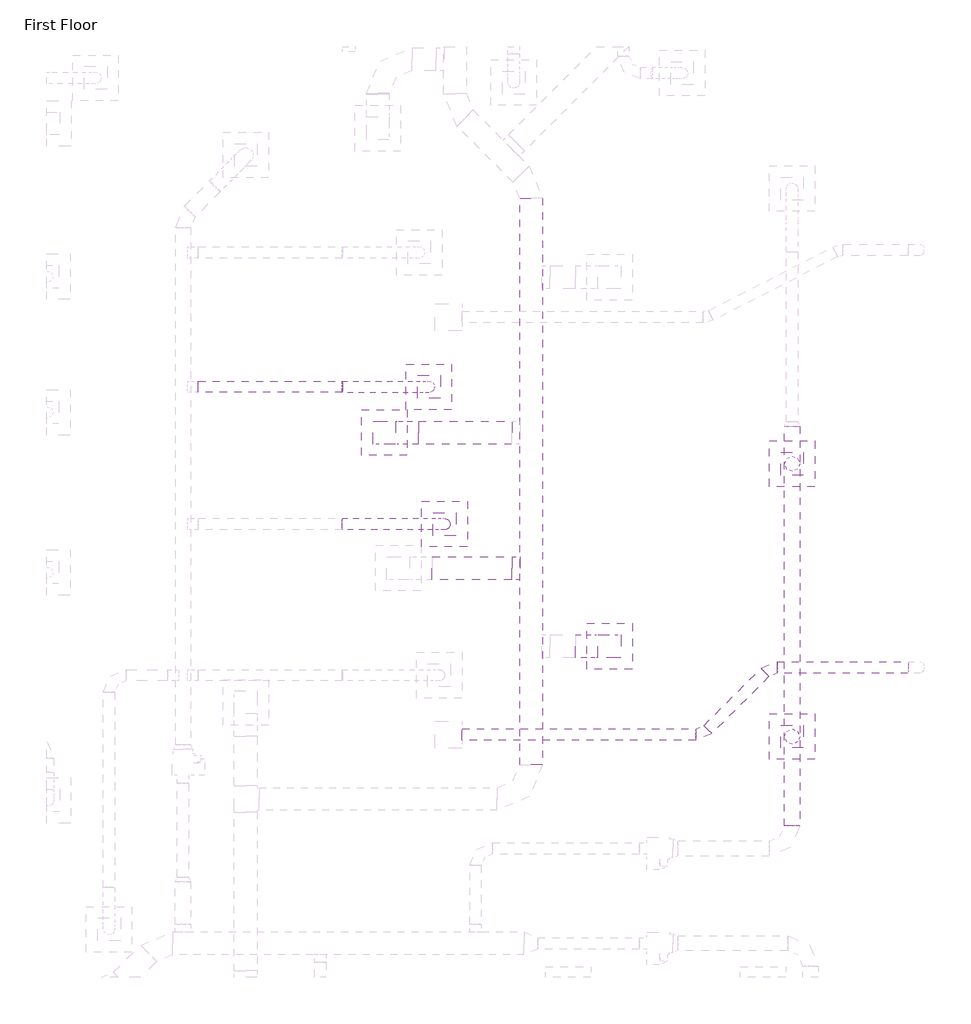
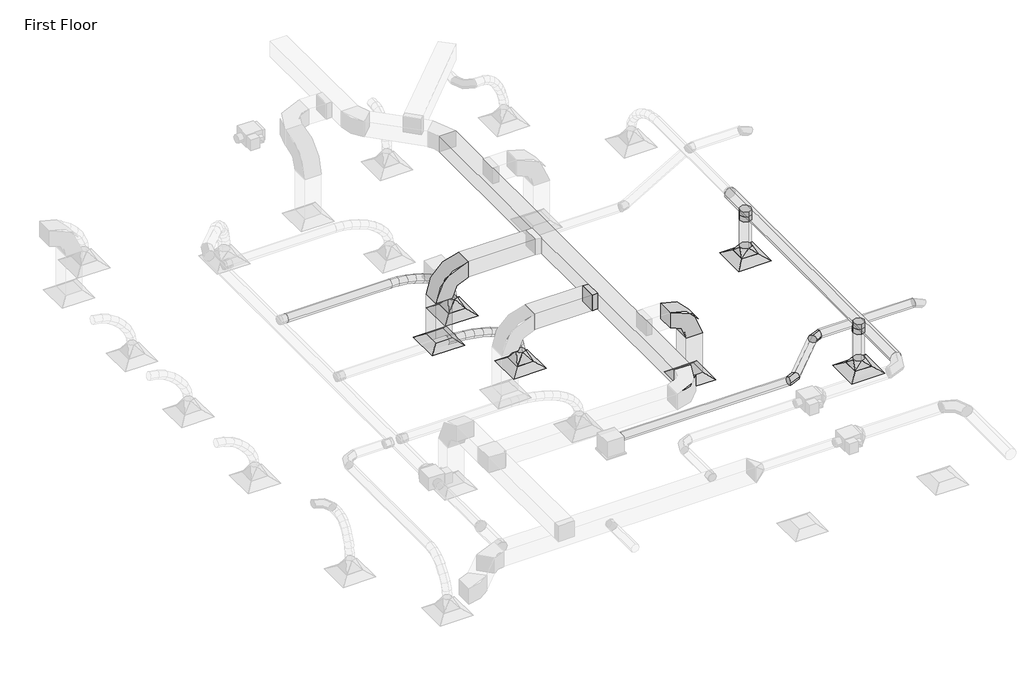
# One storey, part 29 of 61: 14 duct segments, 11 duct fittings, 6 air terminals.
"""IFC4 building model written with IfcOpenShell, lengths in millimetres."""

from ifc_helpers import new_model, si_unit, point, frame, frame_2d, origin, place, context, project, spatial, polyline, circle_curve, ellipse_curve, trimmed, segment, composite_curve, outline, extrude, transform, mapped, element, save
from ifc_brep_helpers import plane_surface, cylinder_surface, advanced_brep
from components import m_exhaust_grill_er_600_x_600_face_300_x_300_connection_ff221211, m_rectangular_elbow_radius_1_5_w_86011e9f, m_rectangular_takeoff_standard_c00386d1, m_rectangular_to_round_transition_angle_45_degree_8f201c83, m_rectangular_to_round_transition_angle_45_degree_60daae35, m_rectangular_to_round_transition_angle_45_degree_7471e4b7, m_round_elbow_1_5_d_fa134dda, m_round_takeoff_standard_c62ca294

model = new_model("IFC4")

# Units and contexts
model_context = context("Model", 3, world=origin())
ifc_project = project(units=[si_unit("LENGTHUNIT", "METRE", prefix="MILLI")], contexts=[model_context])

# Site, building, storey
site = spatial("IfcSite", under=ifc_project)
building = spatial("IfcBuilding", under=site)
storey = spatial("IfcBuildingStorey", under=building, Name="First Floor", Elevation=0.0)

# Air terminals
placement = place(None, origin())
m_exhaust_grill_er_600_x_600_face_300_x_300_connection_shape = m_exhaust_grill_er_600_x_600_face_300_x_300_connection_ff221211(model_context)
element("IfcAirTerminal", 1, ObjectType="M_Return Register : RR-600 x 600 Face 300 x 300 Connection", at=placement, inside=storey, context=model_context, shape_type="MappedRepresentation", body=[
    mapped(m_exhaust_grill_er_600_x_600_face_300_x_300_connection_shape, transform((-3467.2135398, 17580.7276944, 2680.0), x_axis=(1.0, 0.0, 0.0), y_axis=(0.0, 1.0, 0.0), z_axis=(0.0, 0.0, 1.0))),
])
element("IfcAirTerminal", 2, ObjectType="M_Return Register : RR-600 x 600 Face 300 x 300 Connection", at=placement, inside=storey, context=model_context, shape_type="MappedRepresentation", body=[
    mapped(m_exhaust_grill_er_600_x_600_face_300_x_300_connection_shape, transform((-6436.7744322, 20395.3598934, 2680.0), x_axis=(1.0, 0.0, 0.0), y_axis=(0.0, 1.0, 0.0), z_axis=(0.0, 0.0, 1.0))),
])
element("IfcAirTerminal", 3, ObjectType="M_Supply Diffuser : SD-600 x 600 Face 300 x 300 Connection", at=placement, inside=storey, context=model_context, shape_type="MappedRepresentation", body=[
    mapped(m_exhaust_grill_er_600_x_600_face_300_x_300_connection_shape, transform((-1059.7279224, 16390.5597335, 2680.0), x_axis=(1.0, 0.0, 0.0), y_axis=(0.0, 1.0, 0.0), z_axis=(0.0, 0.0, 1.0))),
])
element("IfcAirTerminal", 4, ObjectType="M_Supply Diffuser : SD-600 x 600 Face 300 x 300 Connection", at=placement, inside=storey, context=model_context, shape_type="MappedRepresentation", body=[
    mapped(m_exhaust_grill_er_600_x_600_face_300_x_300_connection_shape, transform((-1059.7406517, 19985.6600802, 2680.0), x_axis=(1.0, 0.0, 0.0), y_axis=(0.0, 1.0, 0.0), z_axis=(0.0, 0.0, 1.0))),
])
element("IfcAirTerminal", 5, ObjectType="M_Supply Diffuser : SD-600 x 600 Face 300 x 300 Connection", at=placement, inside=storey, context=model_context, shape_type="MappedRepresentation", body=[
    mapped(m_exhaust_grill_er_600_x_600_face_300_x_300_connection_shape, transform((-5642.2353015, 19189.4526186, 2680.0), x_axis=(1.0, 0.0, 0.0), y_axis=(0.0, 1.0, 0.0), z_axis=(0.0, 0.0, 1.0))),
])
element("IfcAirTerminal", 6, ObjectType="M_Supply Diffuser : SD-600 x 600 Face 300 x 300 Connection", at=placement, inside=storey, context=model_context, shape_type="MappedRepresentation", body=[
    mapped(m_exhaust_grill_er_600_x_600_face_300_x_300_connection_shape, transform((-5846.8296927, 20999.3260792, 2680.0), x_axis=(1.0, 0.0, 0.0), y_axis=(0.0, 1.0, 0.0), z_axis=(0.0, 0.0, 1.0))),
])

# Duct fittings
m_rectangular_elbow_radius_1_5_w_shape = m_rectangular_elbow_radius_1_5_w_86011e9f(model_context)
element("IfcDuctFitting", 7, ObjectType="M_Rectangular Elbow - Radius : 1.5 W", at=placement, inside=storey, context=model_context, shape_type="MappedRepresentation", body=[
    mapped(m_rectangular_elbow_radius_1_5_w_shape, transform((-6436.7744322, 20395.3598934, 4000.0), x_axis=(0.0, 0.0, 1.0), y_axis=(1.0, 0.0, 0.0), z_axis=(0.0, 1.0, 0.0))),
])
element("IfcDuctFitting", 8, ObjectType="M_Rectangular Elbow - Radius : 1.5 W", at=placement, inside=storey, context=model_context, shape_type="MappedRepresentation", body=[
    mapped(m_rectangular_elbow_radius_1_5_w_shape, transform((-3467.2135398, 17580.7276944, 4000.0), x_axis=(0.0, 0.0, 1.0), y_axis=(-1.0, 0.0, 0.0), z_axis=(0.0, -1.0, 0.0))),
])
m_rectangular_takeoff_standard_shape = m_rectangular_takeoff_standard_c00386d1(model_context)
element("IfcDuctFitting", 9, ObjectType="M_Rectangular Takeoff : Standard", at=placement, inside=storey, context=model_context, shape_type="MappedRepresentation", body=[
    mapped(m_rectangular_takeoff_standard_shape, transform((-4650.4325102, 18610.0, 4000.0), x_axis=(-1.0, 0.0, 0.0), y_axis=(0.0, 1.0, 0.0), z_axis=(0.0, 0.0, -1.0))),
])
m_rectangular_to_round_transition_angle_45_degree_shape = m_rectangular_to_round_transition_angle_45_degree_8f201c83(model_context)
element("IfcDuctFitting", 10, ObjectType="M_Rectangular to Round Transition - Angle : 45 Degree", at=placement, inside=storey, context=model_context, shape_type="MappedRepresentation", body=[
    mapped(m_rectangular_to_round_transition_angle_45_degree_shape, transform((-5846.8296927, 20999.3260792, 2781.6), x_axis=(0.0, 0.0, 1.0), y_axis=(1.0, 0.0, 0.0), z_axis=(0.0, 1.0, 0.0))),
])
element("IfcDuctFitting", 11, ObjectType="M_Rectangular to Round Transition - Angle : 45 Degree", at=placement, inside=storey, context=model_context, shape_type="MappedRepresentation", body=[
    mapped(m_rectangular_to_round_transition_angle_45_degree_shape, transform((-5642.2353015, 19189.4526186, 2781.6), x_axis=(0.0, 0.0, 1.0), y_axis=(1.0, 0.0, 0.0), z_axis=(0.0, 1.0, 0.0))),
])
m_rectangular_to_round_transition_angle_45_degree_2_shape = m_rectangular_to_round_transition_angle_45_degree_60daae35(model_context)
element("IfcDuctFitting", 12, ObjectType="M_Rectangular to Round Transition - Angle : 45 Degree", at=placement, inside=storey, context=model_context, shape_type="MappedRepresentation", body=[
    mapped(m_rectangular_to_round_transition_angle_45_degree_2_shape, transform((-1059.7279224, 16390.5597335, 2781.6), x_axis=(0.0, 0.0, 1.0), y_axis=(1.0, 0.0, 0.0), z_axis=(0.0, 1.0, 0.0))),
])
m_rectangular_to_round_transition_angle_45_degree_3_shape = m_rectangular_to_round_transition_angle_45_degree_7471e4b7(model_context)
element("IfcDuctFitting", 13, ObjectType="M_Rectangular to Round Transition - Angle : 45 Degree", at=placement, inside=storey, context=model_context, shape_type="MappedRepresentation", body=[
    mapped(m_rectangular_to_round_transition_angle_45_degree_3_shape, transform((-1059.7406517, 19985.6600802, 2781.6), x_axis=(0.0, 0.0, 1.0), y_axis=(1.0, 0.0, 0.0), z_axis=(0.0, 1.0, 0.0))),
])
m_round_elbow_1_5_d_shape = m_round_elbow_1_5_d_fa134dda(model_context)
element("IfcDuctFitting", 14, ObjectType="M_Round Elbow : 1.5 D", at=placement, inside=storey, context=model_context, shape_type="MappedRepresentation", body=[
    mapped(m_round_elbow_1_5_d_shape, transform((-2236.1387138, 16417.4766608, 2879.6), x_axis=(1.0, 0.0, 0.0), y_axis=(0.0, 1.0, 0.0), z_axis=(0.0, 0.0, 1.0))),
])
element("IfcDuctFitting", 15, ObjectType="M_Round Elbow : 1.5 D", at=placement, inside=storey, context=model_context, shape_type="MappedRepresentation", body=[
    mapped(m_round_elbow_1_5_d_shape, transform((-1350.5330077, 17303.0823669, 2879.6), x_axis=(-1.0, 0.0, 0.0), y_axis=(0.0, -1.0, 0.0), z_axis=(0.0, 0.0, 1.0))),
])
m_round_takeoff_standard_shape = m_round_takeoff_standard_c62ca294(model_context)
element("IfcDuctFitting", 16, ObjectType="M_Round Takeoff : Standard", at=placement, inside=storey, context=model_context, shape_type="MappedRepresentation", body=[
    mapped(m_round_takeoff_standard_shape, transform((-1059.7279224, 19985.6600802, 3519.1), x_axis=(0.0, 0.0, -1.0), y_axis=(-1.0, 0.0, 0.0), z_axis=(0.0, 1.0, 0.0))),
])
element("IfcDuctFitting", 17, ObjectType="M_Round Takeoff : Standard", at=placement, inside=storey, context=model_context, shape_type="MappedRepresentation", body=[
    mapped(m_round_takeoff_standard_shape, transform((-1059.7279224, 16390.5597335, 3519.1), x_axis=(0.0, 0.0, -1.0), y_axis=(-1.0, 0.0, 0.0), z_axis=(0.0, 1.0, 0.0))),
])

# Duct segments
element("IfcDuctSegment", 18, ObjectType="Flex - Round", at=placement, inside=storey, context=model_context, shape_type="AdvancedBrep", body=[
    advanced_brep(
    [(-6989.2747853, 21074.3260792, 3619.1), (-6992.7970354, 20999.3260792, 3544.182754), (-6989.2747853, 20924.3260792, 3619.1), (-6985.7525352, 20999.3260792, 3694.017246), (-6850.5602123, 21074.3260792, 3612.5783052), (-6857.2278739, 20999.3260792, 3537.8089413), (-6850.5602123, 20924.3260792, 3612.5783052), (-6843.8925508, 20999.3260792, 3687.347669), (-5846.8296927, 21074.3260792, 2962.6660172), (-5772.7821084, 20999.3260792, 2974.5805152), (-5846.8296927, 20924.3260792, 2962.6660172), (-5920.877277, 20999.3260792, 2950.7515192), (-6701.8068892, 21074.3260792, 3592.9942674), (-6714.5543238, 20999.3260792, 3519.0253328), (-6701.8068892, 20924.3260792, 3592.9942674), (-6689.0594545, 20999.3260792, 3666.9632021), (-6548.8185191, 21074.3260792, 3560.3194566), (-6567.5390172, 20999.3260792, 3487.6262315), (-6548.8185191, 20924.3260792, 3560.3194566), (-6530.098021, 20999.3260792, 3633.0126818), (-6397.3988054, 21074.3260792, 3514.5254429), (-6422.5121073, 20999.3260792, 3443.7655998), (-6397.3988054, 20924.3260792, 3514.5254429), (-6372.2855035, 20999.3260792, 3585.2852861), (-6253.3514514, 21074.3260792, 3455.5837962), (-6285.7590471, 20999.3260792, 3387.8086499), (-6253.3514514, 20924.3260792, 3455.5837962), (-6220.9438557, 20999.3260792, 3523.3589425), (-6122.4801604, 21074.3260792, 3383.4660864), (-6163.5413846, 20999.3260792, 3320.4595939), (-6122.4801604, 20924.3260792, 3383.4660864), (-6081.4189362, 20999.3260792, 3446.472579), (-6010.5886357, 21074.3260792, 3298.1438837), (-6061.9141697, 20999.3260792, 3242.9643781), (-6010.5886357, 20924.3260792, 3298.1438837), (-5959.2631018, 20999.3260792, 3353.3233892), (-5923.4805807, 21074.3260792, 3199.5887579), (-5986.0641549, 20999.3260792, 3157.1467378), (-5923.4805807, 20924.3260792, 3199.5887579), (-5860.8970064, 20999.3260792, 3242.030778), (-5866.9596986, 21074.3260792, 3087.772279), (-5939.1548452, 20999.3260792, 3064.3450396), (-5866.9596986, 20924.3260792, 3087.772279), (-5794.764552, 20999.3260792, 3111.1995185)],
    [
        (0, 1, circle_curve(frame((-6989.2747853, 20999.3260792, 3619.1), z_axis=(-0.9988966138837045, 0.0, 0.04696333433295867), x_axis=(0.0, 1.0, 0.0)), 75.0)),
        (1, 2, circle_curve(frame((-6989.2747853, 20999.3260792, 3619.1), z_axis=(-0.9988966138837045, 0.0, 0.04696333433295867), x_axis=(0.0, 1.0, 0.0)), 75.0)),
        (2, 3, circle_curve(frame((-6989.2747853, 20999.3260792, 3619.1), z_axis=(-0.9988966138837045, 0.0, 0.04696333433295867), x_axis=(0.0, 1.0, 0.0)), 75.0)),
        (3, 0, circle_curve(frame((-6989.2747853, 20999.3260792, 3619.1), z_axis=(-0.9988966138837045, 0.0, 0.04696333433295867), x_axis=(0.0, 1.0, 0.0)), 75.0)),
        (0, 4),
        (4, 5, ellipse_curve(frame((-6850.5602123, 20999.3260792, 3612.5783052), z_axis=(-0.9960473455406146, 0.0, 0.08882390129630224), x_axis=(-0.08882390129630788, 0.0, -0.9960473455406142)), 75.0660741, 75.0)),
        (5, 1),
        (5, 6, ellipse_curve(frame((-6850.5602123, 20999.3260792, 3612.5783052), z_axis=(-0.9960473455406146, 0.0, 0.08882390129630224), x_axis=(-0.08882390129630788, 0.0, -0.9960473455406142)), 75.0660741, 75.0)),
        (6, 2),
        (6, 7, ellipse_curve(frame((-6850.5602123, 20999.3260792, 3612.5783052), z_axis=(-0.9960473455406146, 0.0, 0.08882390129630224), x_axis=(-0.08882390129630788, 0.0, -0.9960473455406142)), 75.0660741, 75.0)),
        (7, 3),
        (7, 4, ellipse_curve(frame((-6850.5602123, 20999.3260792, 3612.5783052), z_axis=(-0.9960473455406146, 0.0, 0.08882390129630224), x_axis=(-0.08882390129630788, 0.0, -0.9960473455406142)), 75.0660741, 75.0)),
        (8, 9, circle_curve(frame((-5846.8296927, 20999.3260792, 2962.6660172), z_axis=(0.15885997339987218, 0.0, -0.9873011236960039), x_axis=(0.0, 1.0, 0.0)), 75.0)),
        (9, 10, circle_curve(frame((-5846.8296927, 20999.3260792, 2962.6660172), z_axis=(0.15885997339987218, 0.0, -0.9873011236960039), x_axis=(0.0, 1.0, 0.0)), 75.0)),
        (10, 11, circle_curve(frame((-5846.8296927, 20999.3260792, 2962.6660172), z_axis=(0.15885997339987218, 0.0, -0.9873011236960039), x_axis=(0.0, 1.0, 0.0)), 75.0)),
        (11, 8, circle_curve(frame((-5846.8296927, 20999.3260792, 2962.6660172), z_axis=(0.15885997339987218, 0.0, -0.9873011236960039), x_axis=(0.0, 1.0, 0.0)), 75.0)),
        (4, 12),
        (12, 13, ellipse_curve(frame((-6701.8068892, 20999.3260792, 3592.9942674), z_axis=(-0.9854731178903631, 0.0, 0.16983148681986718), x_axis=(-0.16983148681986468, 0.0, -0.9854731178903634)), 75.0593124, 75.0)),
        (13, 5),
        (13, 14, ellipse_curve(frame((-6701.8068892, 20999.3260792, 3592.9942674), z_axis=(-0.9854731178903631, 0.0, 0.16983148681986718), x_axis=(-0.16983148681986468, 0.0, -0.9854731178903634)), 75.0593124, 75.0)),
        (14, 6),
        (14, 15, ellipse_curve(frame((-6701.8068892, 20999.3260792, 3592.9942674), z_axis=(-0.9854731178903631, 0.0, 0.16983148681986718), x_axis=(-0.16983148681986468, 0.0, -0.9854731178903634)), 75.0593124, 75.0)),
        (15, 7),
        (15, 12, ellipse_curve(frame((-6701.8068892, 20999.3260792, 3592.9942674), z_axis=(-0.9854731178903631, 0.0, 0.16983148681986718), x_axis=(-0.16983148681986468, 0.0, -0.9854731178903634)), 75.0593124, 75.0)),
        (12, 16),
        (16, 17, ellipse_curve(frame((-6548.8185191, 20999.3260792, 3560.3194566), z_axis=(-0.9684030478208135, 0.0, 0.24939033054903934), x_axis=(-0.24939033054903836, 0.0, -0.9684030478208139)), 75.065052, 75.0)),
        (17, 13),
        (17, 18, ellipse_curve(frame((-6548.8185191, 20999.3260792, 3560.3194566), z_axis=(-0.9684030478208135, 0.0, 0.24939033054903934), x_axis=(-0.24939033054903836, 0.0, -0.9684030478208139)), 75.065052, 75.0)),
        (18, 14),
        (18, 19, ellipse_curve(frame((-6548.8185191, 20999.3260792, 3560.3194566), z_axis=(-0.9684030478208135, 0.0, 0.24939033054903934), x_axis=(-0.24939033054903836, 0.0, -0.9684030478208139)), 75.065052, 75.0)),
        (19, 15),
        (19, 16, ellipse_curve(frame((-6548.8185191, 20999.3260792, 3560.3194566), z_axis=(-0.9684030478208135, 0.0, 0.24939033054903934), x_axis=(-0.24939033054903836, 0.0, -0.9684030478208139)), 75.065052, 75.0)),
        (16, 20),
        (20, 21, ellipse_curve(frame((-6397.3988054, 20999.3260792, 3514.5254429), z_axis=(-0.942406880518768, 0.0, 0.3344686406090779), x_axis=(-0.3344686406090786, 0.0, -0.9424068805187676)), 75.084175, 75.0)),
        (21, 17),
        (21, 22, ellipse_curve(frame((-6397.3988054, 20999.3260792, 3514.5254429), z_axis=(-0.942406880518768, 0.0, 0.3344686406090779), x_axis=(-0.3344686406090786, 0.0, -0.9424068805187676)), 75.084175, 75.0)),
        (22, 18),
        (22, 23, ellipse_curve(frame((-6397.3988054, 20999.3260792, 3514.5254429), z_axis=(-0.942406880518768, 0.0, 0.3344686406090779), x_axis=(-0.3344686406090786, 0.0, -0.9424068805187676)), 75.084175, 75.0)),
        (23, 19),
        (23, 20, ellipse_curve(frame((-6397.3988054, 20999.3260792, 3514.5254429), z_axis=(-0.942406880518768, 0.0, 0.3344686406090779), x_axis=(-0.3344686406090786, 0.0, -0.9424068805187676)), 75.084175, 75.0)),
        (20, 24),
        (24, 25, ellipse_curve(frame((-6253.3514514, 20999.3260792, 3455.5837962), z_axis=(-0.9021684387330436, 0.0, 0.43138394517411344), x_axis=(-0.4313839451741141, 0.0, -0.9021684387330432)), 75.1247144, 75.0)),
        (25, 21),
        (25, 26, ellipse_curve(frame((-6253.3514514, 20999.3260792, 3455.5837962), z_axis=(-0.9021684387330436, 0.0, 0.43138394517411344), x_axis=(-0.4313839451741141, 0.0, -0.9021684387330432)), 75.1247144, 75.0)),
        (26, 22),
        (26, 27, ellipse_curve(frame((-6253.3514514, 20999.3260792, 3455.5837962), z_axis=(-0.9021684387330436, 0.0, 0.43138394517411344), x_axis=(-0.4313839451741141, 0.0, -0.9021684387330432)), 75.1247144, 75.0)),
        (27, 23),
        (27, 24, ellipse_curve(frame((-6253.3514514, 20999.3260792, 3455.5837962), z_axis=(-0.9021684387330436, 0.0, 0.43138394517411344), x_axis=(-0.4313839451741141, 0.0, -0.9021684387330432)), 75.1247144, 75.0)),
        (24, 28),
        (28, 29, ellipse_curve(frame((-6122.4801604, 20999.3260792, 3383.4660864), z_axis=(-0.8377928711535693, 0.0, 0.545988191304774), x_axis=(-0.5459881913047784, 0.0, -0.8377928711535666)), 75.2053338, 75.0)),
        (29, 25),
        (29, 30, ellipse_curve(frame((-6122.4801604, 20999.3260792, 3383.4660864), z_axis=(-0.8377928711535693, 0.0, 0.545988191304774), x_axis=(-0.5459881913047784, 0.0, -0.8377928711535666)), 75.2053338, 75.0)),
        (30, 26),
        (30, 31, ellipse_curve(frame((-6122.4801604, 20999.3260792, 3383.4660864), z_axis=(-0.8377928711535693, 0.0, 0.545988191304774), x_axis=(-0.5459881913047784, 0.0, -0.8377928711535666)), 75.2053338, 75.0)),
        (31, 27),
        (31, 28, ellipse_curve(frame((-6122.4801604, 20999.3260792, 3383.4660864), z_axis=(-0.8377928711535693, 0.0, 0.545988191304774), x_axis=(-0.5459881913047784, 0.0, -0.8377928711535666)), 75.2053338, 75.0)),
        (28, 32),
        (32, 33, ellipse_curve(frame((-6010.5886357, 20999.3260792, 3298.1438837), z_axis=(-0.73221478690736, 0.0, 0.6810737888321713), x_axis=(-0.6810737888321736, 0.0, -0.7322147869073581)), 75.3597257, 75.0)),
        (33, 29),
        (33, 34, ellipse_curve(frame((-6010.5886357, 20999.3260792, 3298.1438837), z_axis=(-0.73221478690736, 0.0, 0.6810737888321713), x_axis=(-0.6810737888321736, 0.0, -0.7322147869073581)), 75.3597257, 75.0)),
        (34, 30),
        (34, 35, ellipse_curve(frame((-6010.5886357, 20999.3260792, 3298.1438837), z_axis=(-0.73221478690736, 0.0, 0.6810737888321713), x_axis=(-0.6810737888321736, 0.0, -0.7322147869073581)), 75.3597257, 75.0)),
        (35, 31),
        (35, 32, ellipse_curve(frame((-6010.5886357, 20999.3260792, 3298.1438837), z_axis=(-0.73221478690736, 0.0, 0.6810737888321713), x_axis=(-0.6810737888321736, 0.0, -0.7322147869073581)), 75.3597257, 75.0)),
        (32, 36),
        (36, 37, ellipse_curve(frame((-5923.4805807, 20999.3260792, 3199.5887579), z_axis=(-0.5612713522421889, 0.0, 0.8276318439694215), x_axis=(-0.8276318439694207, 0.0, -0.5612713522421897)), 75.617649, 75.0)),
        (37, 33),
        (37, 38, ellipse_curve(frame((-5923.4805807, 20999.3260792, 3199.5887579), z_axis=(-0.5612713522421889, 0.0, 0.8276318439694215), x_axis=(-0.8276318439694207, 0.0, -0.5612713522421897)), 75.617649, 75.0)),
        (38, 34),
        (38, 39, ellipse_curve(frame((-5923.4805807, 20999.3260792, 3199.5887579), z_axis=(-0.5612713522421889, 0.0, 0.8276318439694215), x_axis=(-0.8276318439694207, 0.0, -0.5612713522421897)), 75.617649, 75.0)),
        (39, 35),
        (39, 36, ellipse_curve(frame((-5923.4805807, 20999.3260792, 3199.5887579), z_axis=(-0.5612713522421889, 0.0, 0.8276318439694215), x_axis=(-0.8276318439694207, 0.0, -0.5612713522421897)), 75.617649, 75.0)),
        (36, 40),
        (40, 41, ellipse_curve(frame((-5866.9596986, 20999.3260792, 3087.772279), z_axis=(-0.30865486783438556, 0.0, 0.9511741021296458), x_axis=(-0.9511741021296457, 0.0, -0.30865486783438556)), 75.9010852, 75.0)),
        (41, 37),
        (41, 42, ellipse_curve(frame((-5866.9596986, 20999.3260792, 3087.772279), z_axis=(-0.30865486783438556, 0.0, 0.9511741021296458), x_axis=(-0.9511741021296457, 0.0, -0.30865486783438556)), 75.9010852, 75.0)),
        (42, 38),
        (42, 43, ellipse_curve(frame((-5866.9596986, 20999.3260792, 3087.772279), z_axis=(-0.30865486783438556, 0.0, 0.9511741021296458), x_axis=(-0.9511741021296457, 0.0, -0.30865486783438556)), 75.9010852, 75.0)),
        (43, 39),
        (43, 40, ellipse_curve(frame((-5866.9596986, 20999.3260792, 3087.772279), z_axis=(-0.30865486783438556, 0.0, 0.9511741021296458), x_axis=(-0.9511741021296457, 0.0, -0.30865486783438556)), 75.9010852, 75.0)),
        (40, 8),
        (11, 41),
        (10, 42),
        (9, 43),
    ],
    [
        plane_surface(frame((-6989.2747853, 21074.3260792, 3619.1), z_axis=(-0.9988966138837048, 0.0, 0.046963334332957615), x_axis=(0.046963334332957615, 0.0, 0.9988966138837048))),
        cylinder_surface(frame((-6989.2747853, 20999.3260792, 3619.1), z_axis=(-0.9988966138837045, 0.0, 0.04696333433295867), x_axis=(0.0, 1.0, 0.0)), 75.0),
        plane_surface(frame((-5846.8296927, 21074.3260792, 2962.6660172), z_axis=(0.15885997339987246, 0.0, -0.9873011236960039), x_axis=(0.9873011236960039, 0.0, 0.15885997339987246))),
        cylinder_surface(frame((-6850.5602123, 20999.3260792, 3612.5783052), z_axis=(-0.9914446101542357, 0.0, 0.1305281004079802), x_axis=(0.0, 1.0, 0.0)), 75.0),
        cylinder_surface(frame((-6701.8068892, 20999.3260792, 3592.9942674), z_axis=(-0.9779441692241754, 0.0, 0.20886646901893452), x_axis=(0.0, 1.0, 0.0)), 75.0),
        cylinder_surface(frame((-6548.8185191, 20999.3260792, 3560.3194566), z_axis=(-0.9571834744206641, 0.0, 0.28948194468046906), x_axis=(0.0, 1.0, 0.0)), 75.0),
        cylinder_surface(frame((-6397.3988054, 20999.3260792, 3514.5254429), z_axis=(-0.9255172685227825, 0.0, 0.3787054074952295), x_axis=(0.0, 1.0, 0.0)), 75.0),
        cylinder_surface(frame((-6253.3514514, 20999.3260792, 3455.5837962), z_axis=(-0.8758242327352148, 0.0, 0.48263020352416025), x_axis=(0.0, 1.0, 0.0)), 75.0),
        cylinder_surface(frame((-6122.4801604, 20999.3260792, 3383.4660864), z_axis=(-0.7951866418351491, 0.0, 0.6063647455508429), x_axis=(0.0, 1.0, 0.0)), 75.0),
        cylinder_surface(frame((-6010.5886357, 20999.3260792, 3298.1438837), z_axis=(-0.6622525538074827, 0.0, 0.749280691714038), x_axis=(0.0, 1.0, 0.0)), 75.0),
        cylinder_surface(frame((-5923.4805807, 20999.3260792, 3199.5887579), z_axis=(-0.4511211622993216, 0.0, 0.8924627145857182), x_axis=(0.0, 1.0, 0.0)), 75.0),
        cylinder_surface(frame((-5866.9596986, 20999.3260792, 3087.772279), z_axis=(-0.15885997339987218, 0.0, 0.9873011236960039), x_axis=(0.0, 1.0, 0.0)), 75.0),
    ],
    [
        (0, [[1, 2, 3, 4]]),
        (1, [[-1, 5, 6, 7]]),
        (1, [[-2, -7, 8, 9]]),
        (1, [[-3, -9, 10, 11]]),
        (1, [[-4, -11, 12, -5]]),
        (2, [[13, 14, 15, 16]]),
        (3, [[-6, 17, 18, 19]]),
        (3, [[-8, -19, 20, 21]]),
        (3, [[-10, -21, 22, 23]]),
        (3, [[-12, -23, 24, -17]]),
        (4, [[-18, 25, 26, 27]]),
        (4, [[-20, -27, 28, 29]]),
        (4, [[-22, -29, 30, 31]]),
        (4, [[-24, -31, 32, -25]]),
        (5, [[-26, 33, 34, 35]]),
        (5, [[-28, -35, 36, 37]]),
        (5, [[-30, -37, 38, 39]]),
        (5, [[-32, -39, 40, -33]]),
        (6, [[-34, 41, 42, 43]]),
        (6, [[-36, -43, 44, 45]]),
        (6, [[-38, -45, 46, 47]]),
        (6, [[-40, -47, 48, -41]]),
        (7, [[-42, 49, 50, 51]]),
        (7, [[-44, -51, 52, 53]]),
        (7, [[-46, -53, 54, 55]]),
        (7, [[-48, -55, 56, -49]]),
        (8, [[-50, 57, 58, 59]]),
        (8, [[-52, -59, 60, 61]]),
        (8, [[-54, -61, 62, 63]]),
        (8, [[-56, -63, 64, -57]]),
        (9, [[-58, 65, 66, 67]]),
        (9, [[-60, -67, 68, 69]]),
        (9, [[-62, -69, 70, 71]]),
        (9, [[-64, -71, 72, -65]]),
        (10, [[-66, 73, 74, 75]]),
        (10, [[-68, -75, 76, 77]]),
        (10, [[-70, -77, 78, 79]]),
        (10, [[-72, -79, 80, -73]]),
        (11, [[-74, 81, -16, 82]]),
        (11, [[-76, -82, -15, 83]]),
        (11, [[-78, -83, -14, 84]]),
        (11, [[-80, -84, -13, -81]]),
    ],
),
])
element("IfcDuctSegment", 19, ObjectType="Flex - Round", at=placement, inside=storey, context=model_context, shape_type="AdvancedBrep", body=[
    advanced_brep(
    [(-6989.2747853, 19264.4526186, 3619.1), (-6991.3738728, 19189.4526186, 3544.1293802), (-6989.2747853, 19114.4526186, 3619.1), (-6987.1756978, 19189.4526186, 3694.0706198), (-6845.3187289, 19264.4526186, 3615.0694029), (-6849.4053328, 19189.4526186, 3540.1544312), (-6845.3187289, 19114.4526186, 3615.0694029), (-6841.2321249, 19189.4526186, 3689.9843746), (-5642.2353015, 19264.4526186, 2962.6660172), (-5568.1464068, 19189.4526186, 2974.3208742), (-5642.2353015, 19114.4526186, 2962.6660172), (-5716.3241961, 19189.4526186, 2951.0111602), (-6689.4932788, 19264.4526186, 3602.4198207), (-6697.5940681, 19189.4526186, 3527.8307121), (-6689.4932788, 19114.4526186, 3602.4198207), (-6681.3924894, 19189.4526186, 3677.0089293), (-6527.1880943, 19264.4526186, 3580.3145672), (-6539.5533985, 19189.4526186, 3506.3062668), (-6527.1880943, 19114.4526186, 3580.3145672), (-6514.82279, 19189.4526186, 3654.3228675), (-6363.7928347, 19264.4526186, 3547.916956), (-6381.0040061, 19189.4526186, 3474.8694822), (-6363.7928347, 19114.4526186, 3547.916956), (-6346.5816633, 19189.4526186, 3620.9644297), (-6204.6971595, 19264.4526186, 3504.3903009), (-6227.6948101, 19189.4526186, 3432.925938), (-6204.6971595, 19114.4526186, 3504.3903009), (-6181.6995089, 19189.4526186, 3575.8546638), (-6055.2907279, 19264.4526186, 3448.8979157), (-6085.441844, 19189.4526186, 3380.0904857), (-6055.2907279, 19114.4526186, 3448.8979157), (-6025.1396117, 19189.4526186, 3517.7053457), (-5920.9631993, 19264.4526186, 3380.603114), (-5960.0918343, 19189.4526186, 3316.3600341), (-5920.9631993, 19114.4526186, 3380.603114), (-5881.8345643, 19189.4526186, 3444.8461938), (-5807.104233, 19264.4526186, 3298.6692095), (-5857.2408628, 19189.4526186, 3242.3475786), (-5807.104233, 19114.4526186, 3298.6692095), (-5756.9676032, 19189.4526186, 3354.9908405), (-5719.1034884, 19264.4526186, 3202.2595161), (-5781.3601725, 19189.4526186, 3159.2160765), (-5719.1034884, 19114.4526186, 3202.2595161), (-5656.8468043, 19189.4526186, 3245.3029557), (-5662.3506248, 19264.4526186, 3090.5373474), (-5734.5946275, 19189.4526186, 3067.1546761), (-5662.3506248, 19114.4526186, 3090.5373474), (-5590.106622, 19189.4526186, 3113.9200188)],
    [
        (0, 1, circle_curve(frame((-6989.2747853, 19189.4526186, 3619.1), z_axis=(-0.9996082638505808, 0.0, 0.027987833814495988), x_axis=(0.0, 1.0, 0.0)), 75.0)),
        (1, 2, circle_curve(frame((-6989.2747853, 19189.4526186, 3619.1), z_axis=(-0.9996082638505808, 0.0, 0.027987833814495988), x_axis=(0.0, 1.0, 0.0)), 75.0)),
        (2, 3, circle_curve(frame((-6989.2747853, 19189.4526186, 3619.1), z_axis=(-0.9996082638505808, 0.0, 0.027987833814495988), x_axis=(0.0, 1.0, 0.0)), 75.0)),
        (3, 0, circle_curve(frame((-6989.2747853, 19189.4526186, 3619.1), z_axis=(-0.9996082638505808, 0.0, 0.027987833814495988), x_axis=(0.0, 1.0, 0.0)), 75.0)),
        (0, 4),
        (4, 5, ellipse_curve(frame((-6845.3187289, 19189.4526186, 3615.0694029), z_axis=(-0.9985154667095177, 0.0, 0.05446891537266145), x_axis=(-0.05446891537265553, 0.0, -0.998515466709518)), 75.0263508, 75.0)),
        (5, 1),
        (5, 6, ellipse_curve(frame((-6845.3187289, 19189.4526186, 3615.0694029), z_axis=(-0.9985154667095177, 0.0, 0.05446891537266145), x_axis=(-0.05446891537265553, 0.0, -0.998515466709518)), 75.0263508, 75.0)),
        (6, 2),
        (6, 7, ellipse_curve(frame((-6845.3187289, 19189.4526186, 3615.0694029), z_axis=(-0.9985154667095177, 0.0, 0.05446891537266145), x_axis=(-0.05446891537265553, 0.0, -0.998515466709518)), 75.0263508, 75.0)),
        (7, 3),
        (7, 4, ellipse_curve(frame((-6845.3187289, 19189.4526186, 3615.0694029), z_axis=(-0.9985154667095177, 0.0, 0.05446891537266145), x_axis=(-0.05446891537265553, 0.0, -0.998515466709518)), 75.0263508, 75.0)),
        (8, 9, circle_curve(frame((-5642.2353015, 19189.4526186, 2962.6660172), z_axis=(0.1553980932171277, 0.0, -0.9878519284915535), x_axis=(0.0, 1.0, 0.0)), 75.0)),
        (9, 10, circle_curve(frame((-5642.2353015, 19189.4526186, 2962.6660172), z_axis=(0.1553980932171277, 0.0, -0.9878519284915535), x_axis=(0.0, 1.0, 0.0)), 75.0)),
        (10, 11, circle_curve(frame((-5642.2353015, 19189.4526186, 2962.6660172), z_axis=(0.1553980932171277, 0.0, -0.9878519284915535), x_axis=(0.0, 1.0, 0.0)), 75.0)),
        (11, 8, circle_curve(frame((-5642.2353015, 19189.4526186, 2962.6660172), z_axis=(0.1553980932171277, 0.0, -0.9878519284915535), x_axis=(0.0, 1.0, 0.0)), 75.0)),
        (4, 12),
        (12, 13, ellipse_curve(frame((-6689.4932788, 19189.4526186, 3602.4198207), z_axis=(-0.9941540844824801, 0.0, 0.10797062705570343), x_axis=(-0.10797062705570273, 0.0, -0.9941540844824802)), 75.0277143, 75.0)),
        (13, 5),
        (13, 14, ellipse_curve(frame((-6689.4932788, 19189.4526186, 3602.4198207), z_axis=(-0.9941540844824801, 0.0, 0.10797062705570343), x_axis=(-0.10797062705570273, 0.0, -0.9941540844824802)), 75.0277143, 75.0)),
        (14, 6),
        (14, 15, ellipse_curve(frame((-6689.4932788, 19189.4526186, 3602.4198207), z_axis=(-0.9941540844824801, 0.0, 0.10797062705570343), x_axis=(-0.10797062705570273, 0.0, -0.9941540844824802)), 75.0277143, 75.0)),
        (15, 7),
        (15, 12, ellipse_curve(frame((-6689.4932788, 19189.4526186, 3602.4198207), z_axis=(-0.9941540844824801, 0.0, 0.10797062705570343), x_axis=(-0.10797062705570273, 0.0, -0.9941540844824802)), 75.0277143, 75.0)),
        (12, 16),
        (16, 17, ellipse_curve(frame((-6527.1880943, 19189.4526186, 3580.3145672), z_axis=(-0.9863277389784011, 0.0, 0.1647956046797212), x_axis=(-0.16479560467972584, 0.0, -0.9863277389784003)), 75.0341874, 75.0)),
        (17, 13),
        (17, 18, ellipse_curve(frame((-6527.1880943, 19189.4526186, 3580.3145672), z_axis=(-0.9863277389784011, 0.0, 0.1647956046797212), x_axis=(-0.16479560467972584, 0.0, -0.9863277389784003)), 75.0341874, 75.0)),
        (18, 14),
        (18, 19, ellipse_curve(frame((-6527.1880943, 19189.4526186, 3580.3145672), z_axis=(-0.9863277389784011, 0.0, 0.1647956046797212), x_axis=(-0.16479560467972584, 0.0, -0.9863277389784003)), 75.0341874, 75.0)),
        (19, 15),
        (19, 16, ellipse_curve(frame((-6527.1880943, 19189.4526186, 3580.3145672), z_axis=(-0.9863277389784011, 0.0, 0.1647956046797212), x_axis=(-0.16479560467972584, 0.0, -0.9863277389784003)), 75.0341874, 75.0)),
        (16, 20),
        (20, 21, ellipse_curve(frame((-6363.7928347, 19189.4526186, 3547.916956), z_axis=(-0.9733472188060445, 0.0, 0.22933641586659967), x_axis=(-0.22933641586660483, 0.0, -0.9733472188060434)), 75.0477038, 75.0)),
        (21, 17),
        (21, 22, ellipse_curve(frame((-6363.7928347, 19189.4526186, 3547.916956), z_axis=(-0.9733472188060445, 0.0, 0.22933641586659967), x_axis=(-0.22933641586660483, 0.0, -0.9733472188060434)), 75.0477038, 75.0)),
        (22, 18),
        (22, 23, ellipse_curve(frame((-6363.7928347, 19189.4526186, 3547.916956), z_axis=(-0.9733472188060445, 0.0, 0.22933641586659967), x_axis=(-0.22933641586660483, 0.0, -0.9733472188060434)), 75.0477038, 75.0)),
        (23, 19),
        (23, 20, ellipse_curve(frame((-6363.7928347, 19189.4526186, 3547.916956), z_axis=(-0.9733472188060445, 0.0, 0.22933641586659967), x_axis=(-0.22933641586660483, 0.0, -0.9733472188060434)), 75.0477038, 75.0)),
        (20, 24),
        (24, 25, ellipse_curve(frame((-6204.6971595, 19189.4526186, 3504.3903009), z_axis=(-0.9519238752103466, 0.0, 0.30633467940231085), x_axis=(-0.3063346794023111, 0.0, -0.9519238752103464)), 75.0736112, 75.0)),
        (25, 21),
        (25, 26, ellipse_curve(frame((-6204.6971595, 19189.4526186, 3504.3903009), z_axis=(-0.9519238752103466, 0.0, 0.30633467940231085), x_axis=(-0.3063346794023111, 0.0, -0.9519238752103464)), 75.0736112, 75.0)),
        (26, 22),
        (26, 27, ellipse_curve(frame((-6204.6971595, 19189.4526186, 3504.3903009), z_axis=(-0.9519238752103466, 0.0, 0.30633467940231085), x_axis=(-0.3063346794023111, 0.0, -0.9519238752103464)), 75.0736112, 75.0)),
        (27, 23),
        (27, 24, ellipse_curve(frame((-6204.6971595, 19189.4526186, 3504.3903009), z_axis=(-0.9519238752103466, 0.0, 0.30633467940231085), x_axis=(-0.3063346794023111, 0.0, -0.9519238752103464)), 75.0736112, 75.0)),
        (24, 28),
        (28, 29, ellipse_curve(frame((-6055.2907279, 19189.4526186, 3448.8979157), z_axis=(-0.9159232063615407, 0.0, 0.4013535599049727), x_axis=(-0.40135355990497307, 0.0, -0.9159232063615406)), 75.1235797, 75.0)),
        (29, 25),
        (29, 30, ellipse_curve(frame((-6055.2907279, 19189.4526186, 3448.8979157), z_axis=(-0.9159232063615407, 0.0, 0.4013535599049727), x_axis=(-0.40135355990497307, 0.0, -0.9159232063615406)), 75.1235797, 75.0)),
        (30, 26),
        (30, 31, ellipse_curve(frame((-6055.2907279, 19189.4526186, 3448.8979157), z_axis=(-0.9159232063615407, 0.0, 0.4013535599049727), x_axis=(-0.40135355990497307, 0.0, -0.9159232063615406)), 75.1235797, 75.0)),
        (31, 27),
        (31, 28, ellipse_curve(frame((-6055.2907279, 19189.4526186, 3448.8979157), z_axis=(-0.9159232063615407, 0.0, 0.4013535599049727), x_axis=(-0.40135355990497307, 0.0, -0.9159232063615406)), 75.1235797, 75.0)),
        (28, 32),
        (32, 33, ellipse_curve(frame((-5920.9631993, 19189.4526186, 3380.603114), z_axis=(-0.8540559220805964, 0.0, 0.5201812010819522), x_axis=(-0.5201812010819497, 0.0, -0.854055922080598)), 75.2211632, 75.0)),
        (33, 29),
        (33, 34, ellipse_curve(frame((-5920.9631993, 19189.4526186, 3380.603114), z_axis=(-0.8540559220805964, 0.0, 0.5201812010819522), x_axis=(-0.5201812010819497, 0.0, -0.854055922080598)), 75.2211632, 75.0)),
        (34, 30),
        (34, 35, ellipse_curve(frame((-5920.9631993, 19189.4526186, 3380.603114), z_axis=(-0.8540559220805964, 0.0, 0.5201812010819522), x_axis=(-0.5201812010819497, 0.0, -0.854055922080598)), 75.2211632, 75.0)),
        (35, 31),
        (35, 32, ellipse_curve(frame((-5920.9631993, 19189.4526186, 3380.603114), z_axis=(-0.8540559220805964, 0.0, 0.5201812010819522), x_axis=(-0.5201812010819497, 0.0, -0.854055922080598)), 75.2211632, 75.0)),
        (32, 36),
        (36, 37, ellipse_curve(frame((-5807.104233, 19189.4526186, 3298.6692095), z_axis=(-0.7469286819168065, 0.0, 0.6649041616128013), x_axis=(-0.6649041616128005, 0.0, -0.7469286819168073)), 75.4042953, 75.0)),
        (37, 33),
        (37, 38, ellipse_curve(frame((-5807.104233, 19189.4526186, 3298.6692095), z_axis=(-0.7469286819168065, 0.0, 0.6649041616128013), x_axis=(-0.6649041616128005, 0.0, -0.7469286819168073)), 75.4042953, 75.0)),
        (38, 34),
        (38, 39, ellipse_curve(frame((-5807.104233, 19189.4526186, 3298.6692095), z_axis=(-0.7469286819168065, 0.0, 0.6649041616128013), x_axis=(-0.6649041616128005, 0.0, -0.7469286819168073)), 75.4042953, 75.0)),
        (39, 35),
        (39, 36, ellipse_curve(frame((-5807.104233, 19189.4526186, 3298.6692095), z_axis=(-0.7469286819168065, 0.0, 0.6649041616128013), x_axis=(-0.6649041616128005, 0.0, -0.7469286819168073)), 75.4042953, 75.0)),
        (36, 40),
        (40, 41, ellipse_curve(frame((-5719.1034884, 19189.4526186, 3202.2595161), z_axis=(-0.5686977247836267, 0.0, 0.8225465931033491), x_axis=(-0.8225465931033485, 0.0, -0.5686977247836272)), 75.6877296, 75.0)),
        (41, 37),
        (41, 42, ellipse_curve(frame((-5719.1034884, 19189.4526186, 3202.2595161), z_axis=(-0.5686977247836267, 0.0, 0.8225465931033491), x_axis=(-0.8225465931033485, 0.0, -0.5686977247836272)), 75.6877296, 75.0)),
        (42, 38),
        (42, 43, ellipse_curve(frame((-5719.1034884, 19189.4526186, 3202.2595161), z_axis=(-0.5686977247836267, 0.0, 0.8225465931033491), x_axis=(-0.8225465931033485, 0.0, -0.5686977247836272)), 75.6877296, 75.0)),
        (43, 39),
        (43, 40, ellipse_curve(frame((-5719.1034884, 19189.4526186, 3202.2595161), z_axis=(-0.5686977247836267, 0.0, 0.8225465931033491), x_axis=(-0.8225465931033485, 0.0, -0.5686977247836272)), 75.6877296, 75.0)),
        (40, 44),
        (44, 45, ellipse_curve(frame((-5662.3506248, 19189.4526186, 3090.5373474), z_axis=(-0.3079348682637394, 0.0, 0.9514074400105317), x_axis=(-0.9514074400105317, 0.0, -0.30793486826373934)), 75.9338216, 75.0)),
        (45, 41),
        (45, 46, ellipse_curve(frame((-5662.3506248, 19189.4526186, 3090.5373474), z_axis=(-0.3079348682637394, 0.0, 0.9514074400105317), x_axis=(-0.9514074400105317, 0.0, -0.30793486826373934)), 75.9338216, 75.0)),
        (46, 42),
        (46, 47, ellipse_curve(frame((-5662.3506248, 19189.4526186, 3090.5373474), z_axis=(-0.3079348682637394, 0.0, 0.9514074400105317), x_axis=(-0.9514074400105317, 0.0, -0.30793486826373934)), 75.9338216, 75.0)),
        (47, 43),
        (47, 44, ellipse_curve(frame((-5662.3506248, 19189.4526186, 3090.5373474), z_axis=(-0.3079348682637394, 0.0, 0.9514074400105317), x_axis=(-0.9514074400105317, 0.0, -0.30793486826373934)), 75.9338216, 75.0)),
        (44, 8),
        (11, 45),
        (10, 46),
        (9, 47),
    ],
    [
        plane_surface(frame((-6989.2747853, 19264.4526186, 3619.1), z_axis=(-0.9996082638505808, 0.0, 0.0279878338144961), x_axis=(0.0279878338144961, 0.0, 0.9996082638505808))),
        cylinder_surface(frame((-6989.2747853, 19189.4526186, 3619.1), z_axis=(-0.9996082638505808, 0.0, 0.027987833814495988), x_axis=(0.0, 1.0, 0.0)), 75.0),
        plane_surface(frame((-5642.2353015, 19264.4526186, 2962.6660172), z_axis=(0.15539809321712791, 0.0, -0.9878519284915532), x_axis=(0.9878519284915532, 0.0, 0.15539809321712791))),
        cylinder_surface(frame((-6845.3187289, 19189.4526186, 3615.0694029), z_axis=(-0.9967212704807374, 0.0, 0.0809117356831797), x_axis=(0.0, 1.0, 0.0)), 75.0),
        cylinder_surface(frame((-6689.4932788, 19189.4526186, 3602.4198207), z_axis=(-0.9908524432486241, 0.0, 0.13494975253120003), x_axis=(0.0, 1.0, 0.0)), 75.0),
        cylinder_surface(frame((-6527.1880943, 19189.4526186, 3580.3145672), z_axis=(-0.9809042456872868, 0.0, 0.19449128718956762), x_axis=(0.0, 1.0, 0.0)), 75.0),
        cylinder_surface(frame((-6363.7928347, 19189.4526186, 3547.916956), z_axis=(-0.9645527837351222, 0.0, 0.26388999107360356), x_axis=(0.0, 1.0, 0.0)), 75.0),
        cylinder_surface(frame((-6204.6971595, 19189.4526186, 3504.3903009), z_axis=(-0.9374282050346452, 0.0, 0.3481786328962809), x_axis=(0.0, 1.0, 0.0)), 75.0),
        cylinder_surface(frame((-6055.2907279, 19189.4526186, 3448.8979157), z_axis=(-0.8914047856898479, 0.0, 0.4532080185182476), x_axis=(0.0, 1.0, 0.0)), 75.0),
        cylinder_surface(frame((-5920.9631993, 19189.4526186, 3380.603114), z_axis=(-0.811684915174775, 0.0, 0.5840955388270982), x_axis=(0.0, 1.0, 0.0)), 75.0),
        cylinder_surface(frame((-5807.104233, 19189.4526186, 3298.6692095), z_axis=(-0.6741628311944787, 0.0, 0.7385827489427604), x_axis=(0.0, 1.0, 0.0)), 75.0),
        cylinder_surface(frame((-5719.1034884, 19189.4526186, 3202.2595161), z_axis=(-0.4528977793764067, 0.0, 0.8915624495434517), x_axis=(0.0, 1.0, 0.0)), 75.0),
        cylinder_surface(frame((-5662.3506248, 19189.4526186, 3090.5373474), z_axis=(-0.15539809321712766, 0.0, 0.9878519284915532), x_axis=(0.0, 1.0, 0.0)), 75.0),
    ],
    [
        (0, [[1, 2, 3, 4]]),
        (1, [[-1, 5, 6, 7]]),
        (1, [[-2, -7, 8, 9]]),
        (1, [[-3, -9, 10, 11]]),
        (1, [[-4, -11, 12, -5]]),
        (2, [[13, 14, 15, 16]]),
        (3, [[-6, 17, 18, 19]]),
        (3, [[-8, -19, 20, 21]]),
        (3, [[-10, -21, 22, 23]]),
        (3, [[-12, -23, 24, -17]]),
        (4, [[-18, 25, 26, 27]]),
        (4, [[-20, -27, 28, 29]]),
        (4, [[-22, -29, 30, 31]]),
        (4, [[-24, -31, 32, -25]]),
        (5, [[-26, 33, 34, 35]]),
        (5, [[-28, -35, 36, 37]]),
        (5, [[-30, -37, 38, 39]]),
        (5, [[-32, -39, 40, -33]]),
        (6, [[-34, 41, 42, 43]]),
        (6, [[-36, -43, 44, 45]]),
        (6, [[-38, -45, 46, 47]]),
        (6, [[-40, -47, 48, -41]]),
        (7, [[-42, 49, 50, 51]]),
        (7, [[-44, -51, 52, 53]]),
        (7, [[-46, -53, 54, 55]]),
        (7, [[-48, -55, 56, -49]]),
        (8, [[-50, 57, 58, 59]]),
        (8, [[-52, -59, 60, 61]]),
        (8, [[-54, -61, 62, 63]]),
        (8, [[-56, -63, 64, -57]]),
        (9, [[-58, 65, 66, 67]]),
        (9, [[-60, -67, 68, 69]]),
        (9, [[-62, -69, 70, 71]]),
        (9, [[-64, -71, 72, -65]]),
        (10, [[-66, 73, 74, 75]]),
        (10, [[-68, -75, 76, 77]]),
        (10, [[-70, -77, 78, 79]]),
        (10, [[-72, -79, 80, -73]]),
        (11, [[-74, 81, 82, 83]]),
        (11, [[-76, -83, 84, 85]]),
        (11, [[-78, -85, 86, 87]]),
        (11, [[-80, -87, 88, -81]]),
        (12, [[-82, 89, -16, 90]]),
        (12, [[-84, -90, -15, 91]]),
        (12, [[-86, -91, -14, 92]]),
        (12, [[-88, -92, -13, -89]]),
    ],
),
])
element("IfcDuctSegment", 20, ObjectType="Radius Elbows / Taps", at=placement, inside=storey, context=model_context, shape_type="SweptSolid", body=[
    extrude(outline(polyline([(-4350.4325102, 16019.0358848), (-4650.4325102, 16019.0358848), (-4650.4325102, 23482.6397817), (-4350.4325102, 23482.6397817), (-4350.4325102, 16019.0358848)])), frame((0.0, 0.0, 3850.0), z_axis=(0.0, 0.0, 1.0), x_axis=(1.0, 0.0, 0.0)), (0.0, 0.0, 1.0), 300.0),
])
element("IfcDuctSegment", 21, ObjectType="Radius Elbows / Taps", at=placement, inside=storey, context=model_context, shape_type="SweptSolid", body=[
    extrude(outline(polyline([(-5986.7744322, 20245.3598934), (-5986.7744322, 20545.3598934), (-4750.4325102, 20545.3598934), (-4750.4325102, 20245.3598934), (-5986.7744322, 20245.3598934)])), frame((0.0, 0.0, 3850.0), z_axis=(0.0, 0.0, 1.0), x_axis=(1.0, 0.0, 0.0)), (0.0, 0.0, 1.0), 300.0),
])
element("IfcDuctSegment", 22, ObjectType="Radius Elbows / Taps", at=placement, inside=storey, context=model_context, shape_type="SweptSolid", body=[
    extrude(outline(polyline([(-6286.7744322, 20545.3598934), (-6286.7744322, 20245.3598934), (-6586.7744322, 20245.3598934), (-6586.7744322, 20545.3598934), (-6286.7744322, 20545.3598934)])), frame((0.0, 0.0, 2781.6), z_axis=(0.0, 0.0, 1.0), x_axis=(1.0, 0.0, 0.0)), (0.0, 0.0, 1.0), 768.4),
])
element("IfcDuctSegment", 23, ObjectType="Radius Elbows / Taps", at=placement, inside=storey, context=model_context, shape_type="SweptSolid", body=[
    extrude(outline(polyline([(-5804.2683019, 18460.0), (-5804.2683019, 18760.0), (-4750.4325102, 18760.0), (-4750.4325102, 18460.0), (-5804.2683019, 18460.0)])), frame((0.0, 0.0, 3850.0), z_axis=(0.0, 0.0, 1.0), x_axis=(1.0, 0.0, 0.0)), (0.0, 0.0, 1.0), 300.0),
])
element("IfcDuctSegment", 24, ObjectType="Radius Elbows / Taps", at=placement, inside=storey, context=model_context, shape_type="SweptSolid", body=[
    extrude(outline(polyline([(-3617.2135398, 17430.7276944), (-3617.2135398, 17730.7276944), (-3317.2135398, 17730.7276944), (-3317.2135398, 17430.7276944), (-3617.2135398, 17430.7276944)])), frame((0.0, 0.0, 2781.6), z_axis=(0.0, 0.0, 1.0), x_axis=(1.0, 0.0, 0.0)), (0.0, 0.0, 1.0), 768.4),
])
element("IfcDuctSegment", 25, ObjectType="Taps", at=placement, inside=storey, context=model_context, shape_type="SweptSolid", body=[
    extrude(outline(composite_curve([segment(trimmed(circle_curve(frame_2d((3619.1, -1059.7279224)), 100.0), [point((3619.1, -959.7279224))], [point((3719.1, -1059.7279224))], False, "CARTESIAN"), True, "CONTINUOUS"), segment(trimmed(circle_curve(frame_2d((3619.1, -1059.7279224)), 100.0), [point((3719.1, -1059.7279224))], [point((3619.1, -1159.7279224))], False, "CARTESIAN"), True, "CONTINUOUS"), segment(trimmed(circle_curve(frame_2d((3619.1, -1059.7279224)), 100.0), [point((3619.1, -1159.7279224))], [point((3519.1, -1059.7279224))], False, "CARTESIAN"), True, "CONTINUOUS"), segment(trimmed(circle_curve(frame_2d((3619.1, -1059.7279224)), 100.0), [point((3519.1, -1059.7279224))], [point((3619.1, -959.7279224))], False, "CARTESIAN"), True, "CONTINUOUS")], self_intersect=False)), frame((0.0, 15216.6573912, 0.0), z_axis=(0.0, 1.0, 0.0), x_axis=(0.0, 0.0, 1.0)), (0.0, 0.0, 1.0), 5260.0),
])
element("IfcDuctSegment", 26, ObjectType="Taps", at=placement, inside=storey, context=model_context, shape_type="SweptSolid", body=[
    extrude(outline(composite_curve([segment(trimmed(circle_curve(frame_2d((-1059.7279224, 19985.6600802)), 100.0), [point((-1159.7279224, 19985.6600802))], [point((-1059.7279224, 20085.6600802))], False, "CARTESIAN"), True, "CONTINUOUS"), segment(trimmed(circle_curve(frame_2d((-1059.7279224, 19985.6600802)), 100.0), [point((-1059.7279224, 20085.6600802))], [point((-959.7279224, 19985.6600802))], False, "CARTESIAN"), True, "CONTINUOUS"), segment(trimmed(circle_curve(frame_2d((-1059.7279224, 19985.6600802)), 100.0), [point((-959.7279224, 19985.6600802))], [point((-1059.7279224, 19885.6600802))], False, "CARTESIAN"), True, "CONTINUOUS"), segment(trimmed(circle_curve(frame_2d((-1059.7279224, 19985.6600802)), 100.0), [point((-1059.7279224, 19885.6600802))], [point((-1159.7279224, 19985.6600802))], False, "CARTESIAN"), True, "CONTINUOUS")], self_intersect=False)), frame((0.0, 0.0, 2902.3106781), z_axis=(0.0, 0.0, 1.0), x_axis=(1.0, 0.0, 0.0)), (0.0, 0.0, 1.0), 516.7893219),
])
element("IfcDuctSegment", 27, ObjectType="Taps", at=placement, inside=storey, context=model_context, shape_type="SweptSolid", body=[
    extrude(outline(composite_curve([segment(trimmed(circle_curve(frame_2d((-1059.7279224, 16390.5597335)), 100.0), [point((-1159.7279224, 16390.5597335))], [point((-1059.7279224, 16490.5597335))], False, "CARTESIAN"), True, "CONTINUOUS"), segment(trimmed(circle_curve(frame_2d((-1059.7279224, 16390.5597335)), 100.0), [point((-1059.7279224, 16490.5597335))], [point((-959.7279224, 16390.5597335))], False, "CARTESIAN"), True, "CONTINUOUS"), segment(trimmed(circle_curve(frame_2d((-1059.7279224, 16390.5597335)), 100.0), [point((-959.7279224, 16390.5597335))], [point((-1059.7279224, 16290.5597335))], False, "CARTESIAN"), True, "CONTINUOUS"), segment(trimmed(circle_curve(frame_2d((-1059.7279224, 16390.5597335)), 100.0), [point((-1059.7279224, 16290.5597335))], [point((-1159.7279224, 16390.5597335))], False, "CARTESIAN"), True, "CONTINUOUS")], self_intersect=False)), frame((0.0, 0.0, 2902.3106781), z_axis=(0.0, 0.0, 1.0), x_axis=(1.0, 0.0, 0.0)), (0.0, 0.0, 1.0), 516.7893219),
])
element("IfcDuctSegment", 28, ObjectType="Taps", at=placement, inside=storey, context=model_context, shape_type="SweptSolid", body=[
    extrude(outline(composite_curve([segment(trimmed(circle_curve(frame_2d((20999.3260792, 3619.1)), 75.0), [point((20924.3260792, 3619.1))], [point((20999.3260792, 3694.1))], False, "CARTESIAN"), True, "CONTINUOUS"), segment(trimmed(circle_curve(frame_2d((20999.3260792, 3619.1)), 75.0), [point((20999.3260792, 3694.1))], [point((21074.3260792, 3619.1))], False, "CARTESIAN"), True, "CONTINUOUS"), segment(trimmed(circle_curve(frame_2d((20999.3260792, 3619.1)), 75.0), [point((21074.3260792, 3619.1))], [point((20999.3260792, 3544.1))], False, "CARTESIAN"), True, "CONTINUOUS"), segment(trimmed(circle_curve(frame_2d((20999.3260792, 3619.1)), 75.0), [point((20999.3260792, 3544.1))], [point((20924.3260792, 3619.1))], False, "CARTESIAN"), True, "CONTINUOUS")], self_intersect=False)), frame((-8889.2747853, 0.0, 0.0), z_axis=(1.0, 0.0, 0.0), x_axis=(0.0, 1.0, 0.0)), (0.0, 0.0, 1.0), 1900.0),
])
element("IfcDuctSegment", 29, ObjectType="Taps", at=placement, inside=storey, context=model_context, shape_type="SweptSolid", body=[
    extrude(outline(composite_curve([segment(trimmed(circle_curve(frame_2d((16417.4766608, 2879.6)), 75.0), [point((16342.4766608, 2879.6))], [point((16417.4766608, 2954.6))], False, "CARTESIAN"), True, "CONTINUOUS"), segment(trimmed(circle_curve(frame_2d((16417.4766608, 2879.6)), 75.0), [point((16417.4766608, 2954.6))], [point((16492.4766608, 2879.6))], False, "CARTESIAN"), True, "CONTINUOUS"), segment(trimmed(circle_curve(frame_2d((16417.4766608, 2879.6)), 75.0), [point((16492.4766608, 2879.6))], [point((16417.4766608, 2804.6))], False, "CARTESIAN"), True, "CONTINUOUS"), segment(trimmed(circle_curve(frame_2d((16417.4766608, 2879.6)), 75.0), [point((16417.4766608, 2804.6))], [point((16342.4766608, 2879.6))], False, "CARTESIAN"), True, "CONTINUOUS")], self_intersect=False)), frame((-5408.8009033, 0.0, 0.0), z_axis=(1.0, 0.0, 0.0), x_axis=(0.0, 1.0, 0.0)), (0.0, 0.0, 1.0), 3079.464138),
])
element("IfcDuctSegment", 30, ObjectType="Taps", at=placement, inside=storey, context=model_context, shape_type="SweptSolid", body=[
    extrude(outline(composite_curve([segment(trimmed(circle_curve(frame_2d((0.0, 75.0)), 75.0), [point((75.0, 75.0))], [point((0.0, 0.0))], False, "CARTESIAN"), True, "CONTINUOUS"), segment(trimmed(circle_curve(frame_2d((0.0, 75.0)), 75.0), [point((0.0, 0.0))], [point((-75.0, 75.0))], False, "CARTESIAN"), True, "CONTINUOUS"), segment(trimmed(circle_curve(frame_2d((0.0, 75.0)), 75.0), [point((-75.0, 75.0))], [point((0.0, 150.0))], False, "CARTESIAN"), True, "CONTINUOUS"), segment(trimmed(circle_curve(frame_2d((0.0, 75.0)), 75.0), [point((0.0, 150.0))], [point((75.0, 75.0))], False, "CARTESIAN"), True, "CONTINUOUS")], self_intersect=False)), frame((-2170.2377395, 16483.3776351, 2954.6), z_axis=(0.707106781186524, 0.7071067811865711, 0.0), x_axis=(0.7071067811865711, -0.707106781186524, 0.0)), (0.0, 0.0, 1.0), 1066.0394974),
])
element("IfcDuctSegment", 31, ObjectType="Taps", at=placement, inside=storey, context=model_context, shape_type="SweptSolid", body=[
    extrude(outline(composite_curve([segment(trimmed(circle_curve(frame_2d((17303.0823669, 2879.6)), 75.0), [point((17378.0823669, 2879.6))], [point((17303.0823669, 2804.6))], False, "CARTESIAN"), True, "CONTINUOUS"), segment(trimmed(circle_curve(frame_2d((17303.0823669, 2879.6)), 75.0), [point((17303.0823669, 2804.6))], [point((17228.0823669, 2879.6))], False, "CARTESIAN"), True, "CONTINUOUS"), segment(trimmed(circle_curve(frame_2d((17303.0823669, 2879.6)), 75.0), [point((17228.0823669, 2879.6))], [point((17303.0823669, 2954.6))], False, "CARTESIAN"), True, "CONTINUOUS"), segment(trimmed(circle_curve(frame_2d((17303.0823669, 2879.6)), 75.0), [point((17303.0823669, 2954.6))], [point((17378.0823669, 2879.6))], False, "CARTESIAN"), True, "CONTINUOUS")], self_intersect=False)), frame((-1257.3349561, 0.0, 0.0), z_axis=(1.0, 0.0, 0.0), x_axis=(0.0, 1.0, 0.0)), (0.0, 0.0, 1.0), 1727.7335035),
])

save(model, "model.ifc")
